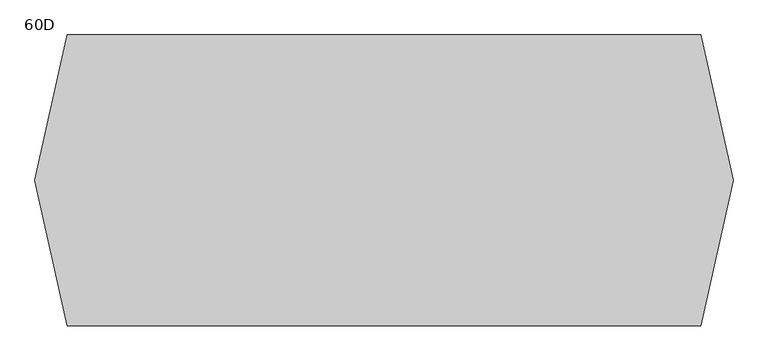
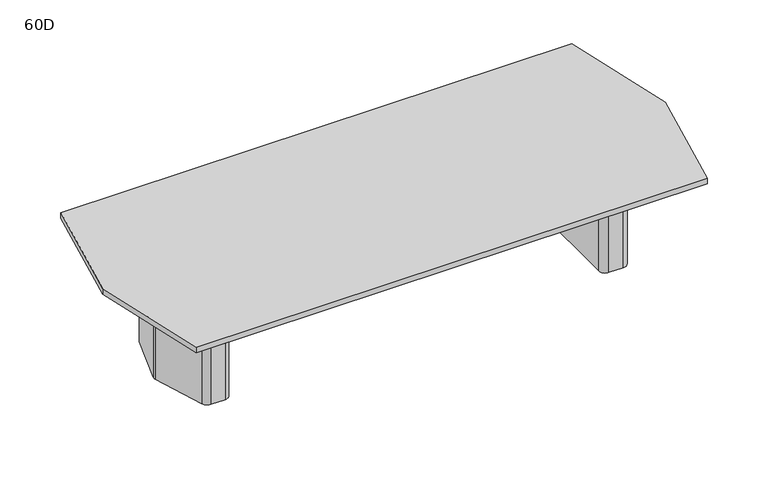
"""IFC4 building model written with IfcOpenShell, lengths in millimetres: furniture geometry, Coalesse_AM_Table_Conference_ETable2_Faceted_12ft_TwoBase : 60D."""

from ifc_helpers import new_model, si_unit, point, frame, frame_2d, origin, origin_with_axes, place, context, project, spatial, polyline, circle_curve, trimmed, segment, composite_curve, outline, extrude, source, transform, mapped, element, save


def furniture_60d_289ce9ac(model_context):
    return source(origin(), model_context, "Body", "SweptSolid", [
        extrude(outline(composite_curve([segment(polyline([(1427.1625, 101.7236478), (1427.1625, -97.2761514)]), True, "CONTINUOUS"), segment(trimmed(circle_curve(frame_2d((1389.0625, -97.2761514)), 38.1), [point((1427.1625, -97.2761514))], [point((1425.3991129, -108.7330515))], False, "CARTESIAN"), True, "CONTINUOUS"), segment(polyline([(1425.3991129, -108.7330515), (1366.9745591, -294.0319001)]), True, "CONTINUOUS"), segment(trimmed(circle_curve(frame_2d((1330.6379462, -282.575)), 38.1), [point((1366.9745591, -294.0319001))], [point((1330.6379462, -320.675))], False, "CARTESIAN"), True, "CONTINUOUS"), segment(polyline([(1330.6379462, -320.675), (1263.65, -320.675)]), True, "CONTINUOUS"), segment(trimmed(circle_curve(frame_2d((1263.65, -282.575)), 38.1), [point((1263.65, -320.675))], [point((1225.55, -282.575))], False, "CARTESIAN"), True, "CONTINUOUS"), segment(polyline([(1225.55, -282.575), (1225.55, 282.575)]), True, "CONTINUOUS"), segment(trimmed(circle_curve(frame_2d((1263.65, 282.575)), 38.1), [point((1225.55, 282.575))], [point((1263.65, 320.675))], False, "CARTESIAN"), True, "CONTINUOUS"), segment(polyline([(1263.65, 320.675), (1334.3873998, 320.675)]), True, "CONTINUOUS"), segment(trimmed(circle_curve(frame_2d((1334.3873998, 282.575)), 38.1), [point((1334.3873998, 320.675))], [point((1370.8572049, 293.6005756))], False, "CARTESIAN"), True, "CONTINUOUS"), segment(polyline([(1370.8572049, 293.6005756), (1425.5323051, 112.7492234)]), True, "CONTINUOUS"), segment(trimmed(circle_curve(frame_2d((1389.0625, 101.7236478)), 38.1), [point((1425.5323051, 112.7492234))], [point((1427.1625, 101.7236478))], False, "CARTESIAN"), True, "CONTINUOUS")], self_intersect=False)), origin_with_axes(), (0.0, 0.0, 1.0), 3.175),
        extrude(outline(composite_curve([segment(polyline([(1247.775, 381.0), (1335.9221663, 381.0)]), True, "CONTINUOUS"), segment(trimmed(circle_curve(frame_2d((1335.9221663, 339.725)), 41.275), [point((1335.9221663, 381.0))], [point((1375.2868303, 352.1366418))], False, "CARTESIAN"), True, "CONTINUOUS"), segment(polyline([(1375.2868303, 352.1366418), (1482.4018053, 12.4116418)]), True, "CONTINUOUS"), segment(trimmed(circle_curve(frame_2d((1443.0371413, 0.0)), 41.275), [point((1482.4018053, 12.4116418))], [point((1482.4018053, -12.4116418))], False, "CARTESIAN"), True, "CONTINUOUS"), segment(polyline([(1482.4018053, -12.4116418), (1375.2868303, -352.1366418)]), True, "CONTINUOUS"), segment(trimmed(circle_curve(frame_2d((1335.9221663, -339.725)), 41.275), [point((1375.2868303, -352.1366418))], [point((1335.9221663, -381.0))], False, "CARTESIAN"), True, "CONTINUOUS"), segment(polyline([(1335.9221663, -381.0), (1241.425, -381.0)]), True, "CONTINUOUS"), segment(trimmed(circle_curve(frame_2d((1241.425, -339.725)), 41.275), [point((1241.425, -381.0))], [point((1200.15, -339.725))], False, "CARTESIAN"), True, "CONTINUOUS"), segment(polyline([(1200.15, -339.725), (1200.15, 333.375)]), True, "CONTINUOUS"), segment(trimmed(circle_curve(frame_2d((1247.775, 333.375)), 47.625), [point((1200.15, 333.375))], [point((1247.775, 381.0))], False, "CARTESIAN"), True, "CONTINUOUS")], self_intersect=False), holes=[composite_curve([segment(trimmed(circle_curve(frame_2d((1263.65, -282.575)), 25.4), [point((1238.25, -282.575))], [point((1263.65, -307.975))], True, "CARTESIAN"), True, "CONTINUOUS"), segment(polyline([(1263.65, -307.975), (1330.6379462, -307.975)]), True, "CONTINUOUS"), segment(trimmed(circle_curve(frame_2d((1330.6379462, -282.575)), 25.4), [point((1330.6379462, -307.975))], [point((1354.8623548, -290.2129334))], True, "CARTESIAN"), True, "CONTINUOUS"), segment(polyline([(1354.8623548, -290.2129334), (1413.2869086, -104.9140848)]), True, "CONTINUOUS"), segment(trimmed(circle_curve(frame_2d((1389.0625, -97.2761514)), 25.4), [point((1413.2869086, -104.9140848))], [point((1414.4625, -97.2761514))], True, "CARTESIAN"), True, "CONTINUOUS"), segment(polyline([(1414.4625, -97.2761514), (1414.4625, 101.7236478)]), True, "CONTINUOUS"), segment(trimmed(circle_curve(frame_2d((1389.0625, 101.7236478)), 25.4), [point((1414.4625, 101.7236478))], [point((1413.3757034, 109.0740316))], True, "CARTESIAN"), True, "CONTINUOUS"), segment(polyline([(1413.3757034, 109.0740316), (1358.7006032, 289.9253837)]), True, "CONTINUOUS"), segment(trimmed(circle_curve(frame_2d((1334.3873998, 282.575)), 25.4), [point((1358.7006032, 289.9253837))], [point((1334.3873998, 307.975))], True, "CARTESIAN"), True, "CONTINUOUS"), segment(polyline([(1334.3873998, 307.975), (1263.65, 307.975)]), True, "CONTINUOUS"), segment(trimmed(circle_curve(frame_2d((1263.65, 282.575)), 25.4), [point((1263.65, 307.975))], [point((1238.25, 282.575))], True, "CARTESIAN"), True, "CONTINUOUS"), segment(polyline([(1238.25, 282.575), (1238.25, -282.575)]), True, "CONTINUOUS")], self_intersect=False)]), frame((0.0, 0.0, 3.175), z_axis=(0.0, 0.0, 1.0), x_axis=(1.0, 0.0, 0.0)), (0.0, 0.0, 1.0), 695.325),
        extrude(outline(composite_curve([segment(trimmed(circle_curve(frame_2d((-1400.175, 101.7236478)), 38.1), [point((-1438.275, 101.7236478))], [point((-1436.6448051, 112.7492234))], False, "CARTESIAN"), True, "CONTINUOUS"), segment(polyline([(-1436.6448051, 112.7492234), (-1381.9697049, 293.6005756)]), True, "CONTINUOUS"), segment(trimmed(circle_curve(frame_2d((-1345.4998998, 282.575)), 38.1), [point((-1381.9697049, 293.6005756))], [point((-1345.4998998, 320.675))], False, "CARTESIAN"), True, "CONTINUOUS"), segment(polyline([(-1345.4998998, 320.675), (-1274.7625, 320.675)]), True, "CONTINUOUS"), segment(trimmed(circle_curve(frame_2d((-1274.7625, 282.575)), 38.1), [point((-1274.7625, 320.675))], [point((-1236.6625, 282.575))], False, "CARTESIAN"), True, "CONTINUOUS"), segment(polyline([(-1236.6625, 282.575), (-1236.6625, -282.575)]), True, "CONTINUOUS"), segment(trimmed(circle_curve(frame_2d((-1274.7625, -282.575)), 38.1), [point((-1236.6625, -282.575))], [point((-1274.7625, -320.675))], False, "CARTESIAN"), True, "CONTINUOUS"), segment(polyline([(-1274.7625, -320.675), (-1341.7504462, -320.675)]), True, "CONTINUOUS"), segment(trimmed(circle_curve(frame_2d((-1341.7504462, -282.575)), 38.1), [point((-1341.7504462, -320.675))], [point((-1378.0870591, -294.0319001))], False, "CARTESIAN"), True, "CONTINUOUS"), segment(polyline([(-1378.0870591, -294.0319001), (-1436.5116129, -108.7330515)]), True, "CONTINUOUS"), segment(trimmed(circle_curve(frame_2d((-1400.175, -97.2761514)), 38.1), [point((-1436.5116129, -108.7330515))], [point((-1438.275, -97.2761514))], False, "CARTESIAN"), True, "CONTINUOUS"), segment(polyline([(-1438.275, -97.2761514), (-1438.275, 101.7236478)]), True, "CONTINUOUS")], self_intersect=False)), origin_with_axes(), (0.0, 0.0, 1.0), 3.175),
        extrude(outline(composite_curve([segment(trimmed(circle_curve(frame_2d((-1258.8875, 333.375)), 47.625), [point((-1258.8875, 381.0))], [point((-1211.2625, 333.375))], False, "CARTESIAN"), True, "CONTINUOUS"), segment(polyline([(-1211.2625, 333.375), (-1211.2625, -339.725)]), True, "CONTINUOUS"), segment(trimmed(circle_curve(frame_2d((-1252.5375, -339.725)), 41.275), [point((-1211.2625, -339.725))], [point((-1252.5375, -381.0))], False, "CARTESIAN"), True, "CONTINUOUS"), segment(polyline([(-1252.5375, -381.0), (-1347.0346663, -381.0)]), True, "CONTINUOUS"), segment(trimmed(circle_curve(frame_2d((-1347.0346663, -339.725)), 41.275), [point((-1347.0346663, -381.0))], [point((-1386.3993303, -352.1366418))], False, "CARTESIAN"), True, "CONTINUOUS"), segment(polyline([(-1386.3993303, -352.1366418), (-1493.5143053, -12.4116418)]), True, "CONTINUOUS"), segment(trimmed(circle_curve(frame_2d((-1454.1496413, 0.0)), 41.275), [point((-1493.5143053, -12.4116418))], [point((-1493.5143053, 12.4116418))], False, "CARTESIAN"), True, "CONTINUOUS"), segment(polyline([(-1493.5143053, 12.4116418), (-1386.3993303, 352.1366418)]), True, "CONTINUOUS"), segment(trimmed(circle_curve(frame_2d((-1347.0346663, 339.725)), 41.275), [point((-1386.3993303, 352.1366418))], [point((-1347.0346663, 381.0))], False, "CARTESIAN"), True, "CONTINUOUS"), segment(polyline([(-1347.0346663, 381.0), (-1258.8875, 381.0)]), True, "CONTINUOUS")], self_intersect=False), holes=[composite_curve([segment(polyline([(-1249.3625, -282.575), (-1249.3625, 282.575)]), True, "CONTINUOUS"), segment(trimmed(circle_curve(frame_2d((-1274.7625, 282.575)), 25.4), [point((-1249.3625, 282.575))], [point((-1274.7625, 307.975))], True, "CARTESIAN"), True, "CONTINUOUS"), segment(polyline([(-1274.7625, 307.975), (-1345.4998998, 307.975)]), True, "CONTINUOUS"), segment(trimmed(circle_curve(frame_2d((-1345.4998998, 282.575)), 25.4), [point((-1345.4998998, 307.975))], [point((-1369.8131032, 289.9253837))], True, "CARTESIAN"), True, "CONTINUOUS"), segment(polyline([(-1369.8131032, 289.9253837), (-1424.4882034, 109.0740316)]), True, "CONTINUOUS"), segment(trimmed(circle_curve(frame_2d((-1400.175, 101.7236478)), 25.4), [point((-1424.4882034, 109.0740316))], [point((-1425.575, 101.7236478))], True, "CARTESIAN"), True, "CONTINUOUS"), segment(polyline([(-1425.575, 101.7236478), (-1425.575, -97.2761514)]), True, "CONTINUOUS"), segment(trimmed(circle_curve(frame_2d((-1400.175, -97.2761514)), 25.4), [point((-1425.575, -97.2761514))], [point((-1424.3994086, -104.9140848))], True, "CARTESIAN"), True, "CONTINUOUS"), segment(polyline([(-1424.3994086, -104.9140848), (-1365.9748548, -290.2129334)]), True, "CONTINUOUS"), segment(trimmed(circle_curve(frame_2d((-1341.7504462, -282.575)), 25.4), [point((-1365.9748548, -290.2129334))], [point((-1341.7504462, -307.975))], True, "CARTESIAN"), True, "CONTINUOUS"), segment(polyline([(-1341.7504462, -307.975), (-1274.7625, -307.975)]), True, "CONTINUOUS"), segment(trimmed(circle_curve(frame_2d((-1274.7625, -282.575)), 25.4), [point((-1274.7625, -307.975))], [point((-1249.3625, -282.575))], True, "CARTESIAN"), True, "CONTINUOUS")], self_intersect=False)]), frame((0.0, 0.0, 3.175), z_axis=(0.0, 0.0, 1.0), x_axis=(1.0, 0.0, 0.0)), (0.0, 0.0, 1.0), 695.325),
        extrude(outline(polyline([(-1828.8, 0.0), (-1659.8677242, 762.0), (1659.8677242, 762.0), (1828.8, 0.0), (1659.8677242, -762.0), (-1659.8677242, -762.0), (-1828.8, 0.0)])), frame((0.0, 0.0, 698.5), z_axis=(0.0, 0.0, 1.0), x_axis=(1.0, 0.0, 0.0)), (0.0, 0.0, 1.0), 38.1),
        extrude(outline(polyline([(96.8375, 698.5), (103.1875, 698.5), (103.1875, 476.25), (-103.1875, 476.25), (-103.1875, 698.5), (-96.8375, 698.5), (-96.8375, 482.6), (96.8375, 482.6), (96.8375, 698.5)])), frame((-1211.2625, 0.0, 0.0), z_axis=(1.0, 0.0, 0.0), x_axis=(0.0, 1.0, 0.0)), (0.0, 0.0, 1.0), 2411.4125),
    ])


if __name__ == "__main__":
    model = new_model("IFC4")
    model_context = context("Model", 3, world=origin())
    ifc_project = project(units=[si_unit("LENGTHUNIT", "METRE", prefix="MILLI")], contexts=[model_context])
    site = spatial("IfcSite", under=ifc_project)
    building = spatial("IfcBuilding", under=site)
    placement = place(None, origin())
    furniture_60d_shape = furniture_60d_289ce9ac(model_context)
    element("IfcFurniture", 1, ObjectType="Coalesse_AM_Table_Conference_ETable2_Faceted_12ft_TwoBase : 60D", at=placement, inside=building, context=model_context, shape_type="MappedRepresentation", body=[
        mapped(furniture_60d_shape, transform((0.0, 0.0, 0.0), x_axis=(1.0, 0.0, 0.0), y_axis=(0.0, 1.0, 0.0), z_axis=(0.0, 0.0, 1.0))),
    ])
    save(model, "model.ifc")
